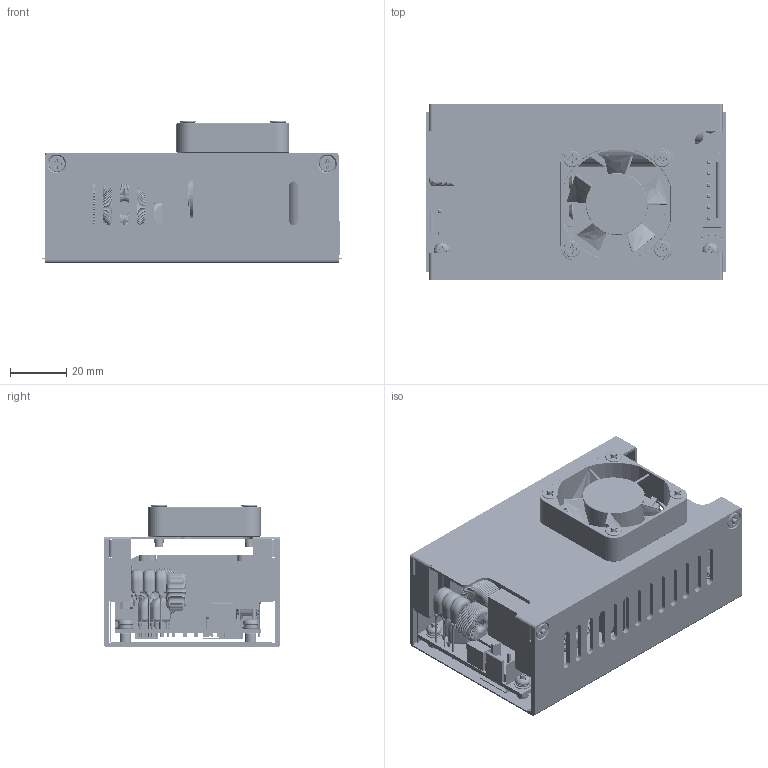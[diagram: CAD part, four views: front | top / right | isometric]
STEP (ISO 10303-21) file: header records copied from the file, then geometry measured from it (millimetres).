
FILE_DESCRIPTION(/* description */ (''),/* implementation_level */ '2;1');
FILE_NAME(/* name */ 'D:\Inventor\MQC150_MQF240\MQF240E A-TYPE.stp',/* time_stamp */ '2020-06-03T09:46:29+08:00',/* author */ ('peter'),/* organization */ (''),/* preprocessor_version */ 'ST-DEVELOPER v15.2',/* originating_system */ 'Autodesk Inventor 2014',/* authorisation */ '');
FILE_SCHEMA (('AUTOMOTIVE_DESIGN { 1 0 10303 214 3 1 1 }'));
Products named in the file (37): R378MQF24004; FAN - 40x40x10 mm; SCREW PH M3_15mm; E - CASE; MQF240; 8-22; M3-1; R378MQF24003-1; MYLAR _ R380MMQF24002; U - CASE for 240U; PCB _ MQF240; R378MQF24001; BD1; TO-220; SCREW PH M3_5mm; SCREW PH M3_6mm; TW-1; X1; R378MQF24002; TO-220FP; X2; L1; NTC1; NTC1 _ 10mm; Y - C; Y - C 1; VR; 2r5 mm - 2P; L2; 2S+1 PIN; MYLAR _ R380MMQC15001; MYLAR _ 12.5x12.5x9 mm L TYPE; 6 PIN; MQF240O A-TYPE; SCREW CH_W  M3_6mm; MQF240U A-TYPE; MQF240E A-TYPE
Bounding box: 106.6 x 62.5 x 50.5 mm (x, y, z)
Volume: 133185.5 mm3; surface area: 121528.3 mm2
Topology: 72 solids, 346 shells, 11142 faces, 21638 edges, 10767 vertices
Faces by surface type: torus 4342, cylinder 4232, plane 2016, bspline 407, cone 145
Full cylindrical faces by diameter (mm): 0.45 x3, 0.5 x1, 0.6 x18, 0.8 x4, 1 x4, 1.553 x2, 1.6 x1, 1.85 x2, 2.459 x13, 2.5 x13, 3 x42, 3.1 x4, 3.2 x11, 3.6 x1, 3.7 x6, 3.85 x1, 4 x4, 4.1 x9, 4.2 x4, 4.3 x4, 5.8 x16, 6 x1, 6.441 x1, 7.488 x1, 7.847 x1, 7.879 x1, 8.756 x1, 10.169 x1, 16.5 x1, 38.5 x1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
Entity records: 210513 total; most frequent: CARTESIAN_POINT 53894, DIRECTION 34103, ORIENTED_EDGE 31296, AXIS2_PLACEMENT_3D 14964, EDGE_CURVE 14268, EDGE_LOOP 7807, ADVANCED_FACE 7389, FACE_OUTER_BOUND 7344
